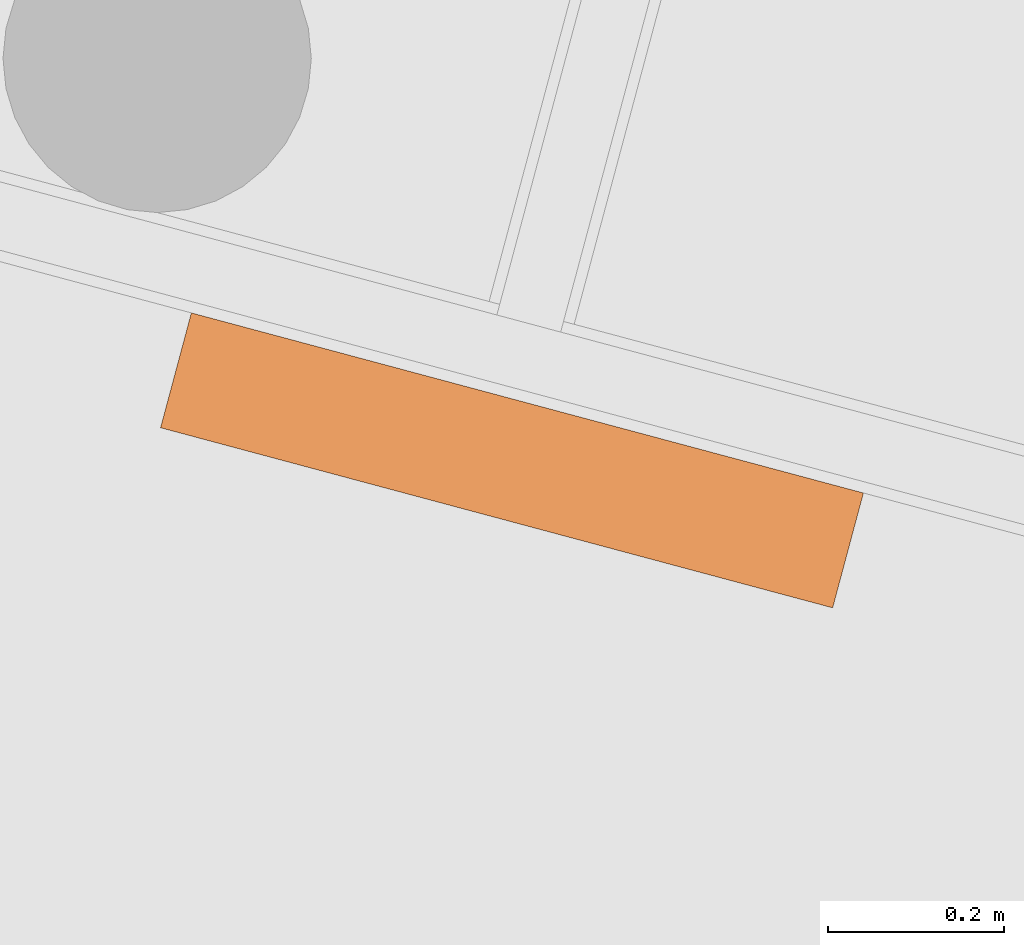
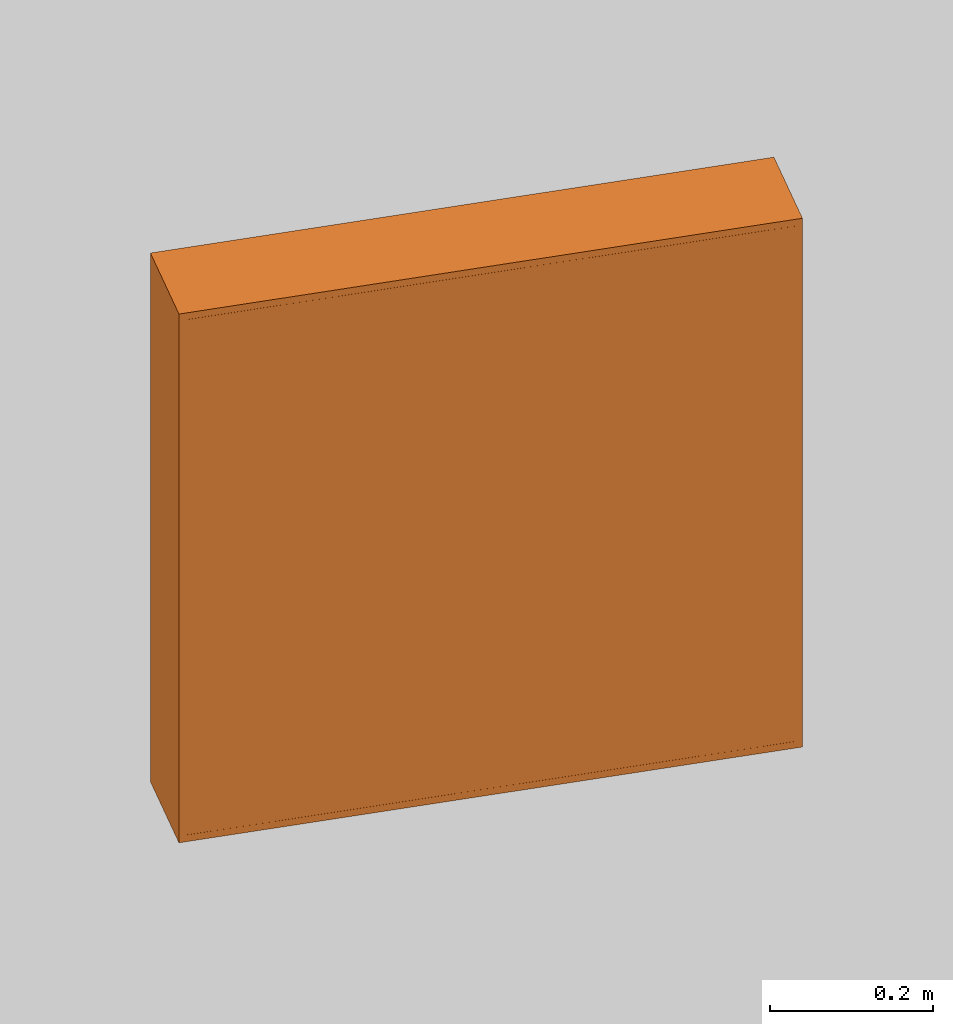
# One storey, part 90 of 167: 1 proxy.
"""IFC2X3 building model written with IfcOpenShell, lengths in millimetres."""

from ifc_helpers import new_model, entity, si_unit, converted_unit, derived_unit, money_unit, direction, frame, origin_with_axes, place, context, subcontext, project, spatial, faceted_brep, source, transform, mapped, type_object, type_shapes, element, save


model = new_model("IFC2X3")

# Units and contexts
model_context = context("Model", 3, precision=0.01, world=origin_with_axes(), true_north=direction((0.0, 1.0)))
plan_context = context("Plan", 3, precision=0.01, world=origin_with_axes(), true_north=direction((0.0, 1.0)))
body_context = subcontext(model_context, "Body", "Model", "MODEL_VIEW")
ifc_project = project(units=[si_unit("LENGTHUNIT", "METRE", prefix="MILLI"), si_unit("AREAUNIT", "SQUARE_METRE"), si_unit("VOLUMEUNIT", "CUBIC_METRE"), converted_unit("PLANEANGLEUNIT", "DEGREE", entity("IfcPlaneAngleMeasure", 0.0174532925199), si_unit("PLANEANGLEUNIT", "RADIAN"), dimensions=[0, 0, 0, 0, 0, 0, 0]), si_unit("SOLIDANGLEUNIT", "STERADIAN"), money_unit("EUR"), converted_unit("TIMEUNIT", "Year", entity("IfcTimeMeasure", 31556926.0), si_unit("TIMEUNIT", "SECOND"), dimensions=[0, 0, 1, 0, 0, 0, 0]), si_unit("MASSUNIT", "GRAM", prefix="KILO"), si_unit("THERMODYNAMICTEMPERATUREUNIT", "DEGREE_CELSIUS"), si_unit("LUMINOUSINTENSITYUNIT", "LUMEN"), si_unit("ENERGYUNIT", "JOULE", prefix="MEGA"), derived_unit("THERMALCONDUCTANCEUNIT", [(si_unit("POWERUNIT", "WATT"), 1), (si_unit("LENGTHUNIT", "METRE"), -1), (si_unit("THERMODYNAMICTEMPERATUREUNIT", "KELVIN"), -1)]), derived_unit("SPECIFICHEATCAPACITYUNIT", [(si_unit("ENERGYUNIT", "JOULE"), 1), (si_unit("MASSUNIT", "GRAM", prefix="KILO"), -1), (si_unit("THERMODYNAMICTEMPERATUREUNIT", "KELVIN"), -1)]), derived_unit("MASSDENSITYUNIT", [(si_unit("MASSUNIT", "GRAM", prefix="KILO"), 1), (si_unit("VOLUMEUNIT", "CUBIC_METRE"), -1)])], contexts=[model_context, plan_context])

# Site, building, storey
site_placement = place(None, origin_with_axes())
site = spatial("IfcSite", under=ifc_project, at=site_placement, Name="Site", CompositionType="ELEMENT")
building_placement = place(site_placement, origin_with_axes())
building = spatial("IfcBuilding", under=site, at=building_placement, Name="Naam gebouw", CompositionType="ELEMENT")
storey_placement = place(building_placement, origin_with_axes())
storey = spatial("IfcBuildingStorey", under=building, at=storey_placement, Name="Begane grond", CompositionType="ELEMENT", Elevation=0.0)

# Proxy
building_element_proxy_type = type_object("IfcBuildingElementProxyType", Name="Brandslanghaspelkast 24 KM", PredefinedType="NOTDEFINED")
shared_shape = source(origin_with_axes(), body_context, "Body", "Brep", [
    faceted_brep([(0.0, 0.0, 790.0), (-790.0, 0.0, 790.0), (-790.0, 0.0, 0.0), (0.0, 0.0, 0.0), (-10.0, 0.0, 10.0), (-780.0, 0.0, 10.0), (-780.0, 0.0, 780.0), (-10.0, 0.0, 780.0), (0.0, 135.0, 790.0), (-790.0, 135.0, 790.0), (-790.0, 135.0, 0.0), (0.0, 135.0, 0.0), (-10.0, 125.0, 10.0), (-780.0, 125.0, 10.0), (-780.0, 125.0, 780.0), (-10.0, 125.0, 780.0)], [[[0, 1, 2, 3], [4, 5, 6, 7]], [[8, 9, 1, 0]], [[1, 9, 10, 2]], [[10, 11, 3, 2]], [[8, 0, 3, 11]], [[4, 12, 13, 5]], [[5, 13, 14, 6]], [[6, 14, 15, 7]], [[7, 15, 12, 4]], [[9, 8, 11, 10]], [[13, 12, 15, 14]]]),
    faceted_brep([(-780.1, 0.0, 10.1), (-780.1, 10.0, 10.1), (-10.1, 10.0, 10.1), (-10.1, 0.0, 10.1), (-780.1, 0.0, 779.9), (-780.1, 10.0, 779.9), (-10.1, 10.0, 779.9), (-10.1, 0.0, 779.9)], [[[0, 1, 2, 3]], [[0, 4, 5, 1]], [[1, 5, 6, 2]], [[2, 6, 7, 3]], [[3, 7, 4, 0]], [[7, 6, 5, 4]]]),
])
type_shapes(building_element_proxy_type, [shared_shape])
proxy_placement = place(storey_placement, frame((15166.961004, 12690.9206151, 750.0), z_axis=(0.0, 0.0, 1.0), x_axis=(0.965925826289, -0.258819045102, 0.0)))
element("IfcBuildingElementProxy", 1, at=proxy_placement, inside=storey, type_object=building_element_proxy_type, Name="__Object-x", context=body_context, shape_type="MappedRepresentation", body=[
    mapped(shared_shape, transform((0.0, 0.0, 0.0))),
])

save(model, "model.ifc")
